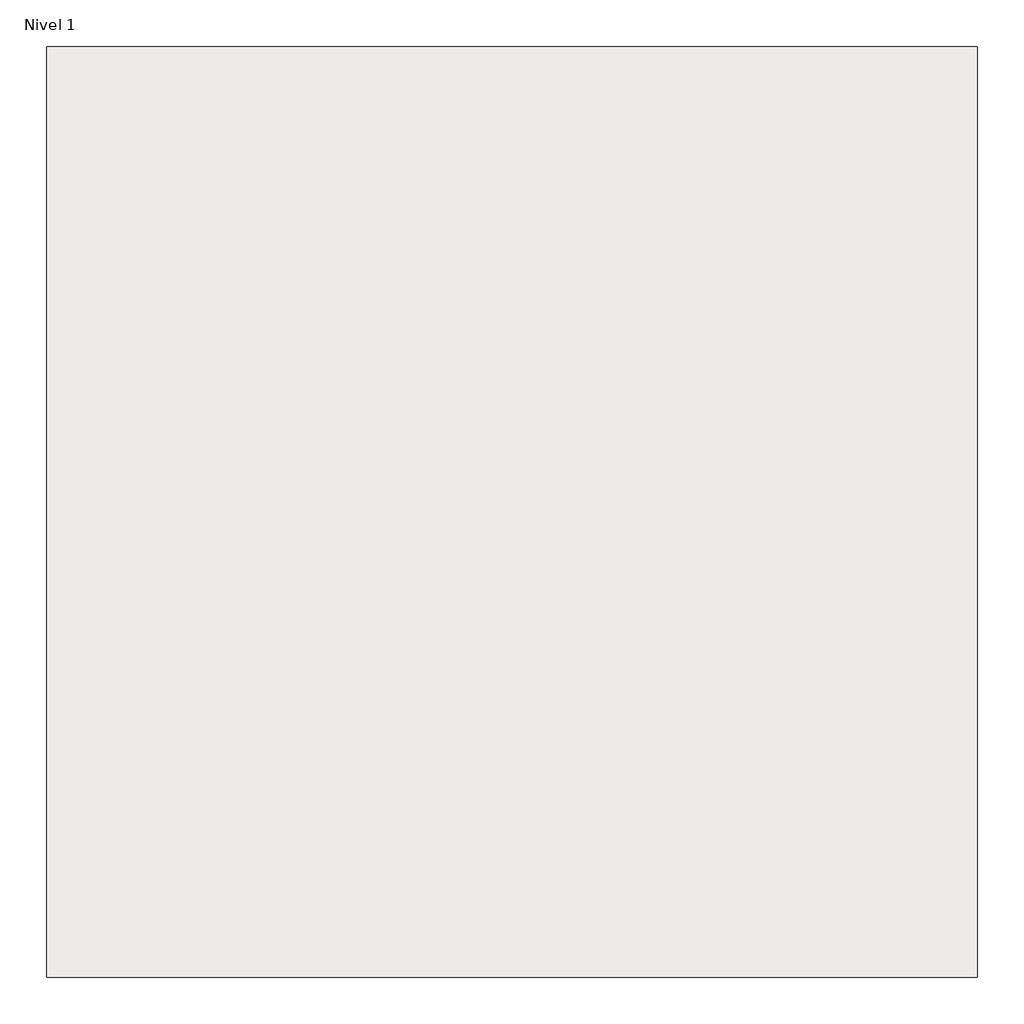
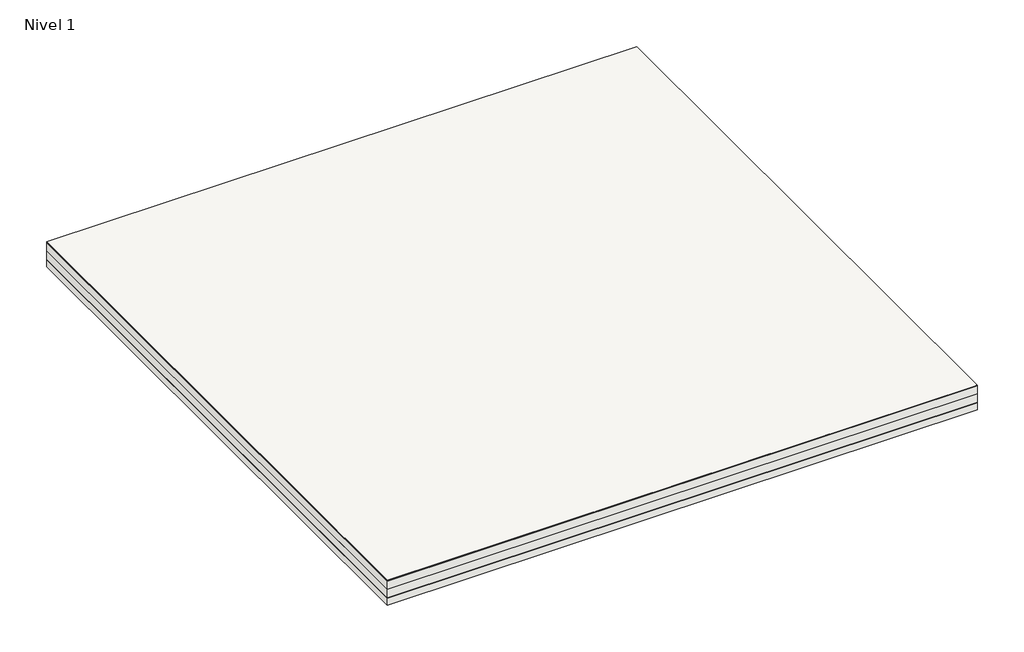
# One storey: 1 roof, 1 slab.
"""IFC4 building model written with IfcOpenShell, lengths in millimetres."""

from ifc_helpers import new_model, si_unit, frame, origin, origin_with_axes, place, context, project, spatial, polyline, outline, extrude, element, save

model = new_model("IFC4")

# Units and contexts
model_context = context("Model", 3, world=origin())
ifc_project = project(units=[si_unit("LENGTHUNIT", "METRE", prefix="MILLI")], contexts=[model_context])

# Site, building, storey
site = spatial("IfcSite", under=ifc_project)
building = spatial("IfcBuilding", under=site)
storey = spatial("IfcBuildingStorey", under=building, Name="Nivel 1", Elevation=0.0)

# Roof
placement = place(None, origin())
element("IfcRoof", 1, ObjectType="CubiertaDeck-Bituminosa_LBMGranuloNatureLanaRocaSoldable_BANTDGM7_MW_NATURE", at=placement, inside=storey, context=model_context, shape_type="SweptSolid", body=[
    extrude(outline(polyline([(-2544.9527165, -3086.8428917), (-6544.9527165, -3086.8428917), (-6544.9527165, 913.1571083), (-2544.9527165, 913.1571083), (-2544.9527165, -3086.8428917)])), frame((0.0, 0.0, 124.0), z_axis=(0.0, 0.0, 1.0), x_axis=(1.0, 0.0, 0.0)), (0.0, 0.0, 1.0), 2.0),
    extrude(outline(polyline([(-2544.9527165, -3086.8428917), (-6544.9527165, -3086.8428917), (-6544.9527165, 913.1571083), (-2544.9527165, 913.1571083), (-2544.9527165, -3086.8428917)])), frame((0.0, 0.0, 122.0), z_axis=(0.0, 0.0, 1.0), x_axis=(1.0, 0.0, 0.0)), (0.0, 0.0, 1.0), 2.0),
    extrude(outline(polyline([(-2544.9527165, -3086.8428917), (-6544.9527165, -3086.8428917), (-6544.9527165, 913.1571083), (-2544.9527165, 913.1571083), (-2544.9527165, -3086.8428917)])), frame((0.0, 0.0, 62.0), z_axis=(0.0, 0.0, 1.0), x_axis=(1.0, 0.0, 0.0)), (0.0, 0.0, 1.0), 60.0),
    extrude(outline(polyline([(-2544.9527165, -3086.8428917), (-6544.9527165, -3086.8428917), (-6544.9527165, 913.1571083), (-2544.9527165, 913.1571083), (-2544.9527165, -3086.8428917)])), frame((0.0, 0.0, 2.0), z_axis=(0.0, 0.0, 1.0), x_axis=(1.0, 0.0, 0.0)), (0.0, 0.0, 1.0), 60.0),
    extrude(outline(polyline([(-2544.9527165, -3086.8428917), (-6544.9527165, -3086.8428917), (-6544.9527165, 913.1571083), (-2544.9527165, 913.1571083), (-2544.9527165, -3086.8428917)])), origin_with_axes(), (0.0, 0.0, 1.0), 2.0),
])

# Slab
element("IfcSlab", 2, ObjectType="Chapa grecada", at=placement, inside=storey, context=model_context, shape_type="SweptSolid", body=[
    extrude(outline(polyline([(-2544.9527165, 913.1571083), (-2544.9527165, -3086.8428917), (-6544.9527165, -3086.8428917), (-6544.9527165, 913.1571083), (-2544.9527165, 913.1571083)])), frame((0.0, 0.0, -50.0), z_axis=(0.0, 0.0, 1.0), x_axis=(1.0, 0.0, 0.0)), (0.0, 0.0, 1.0), 50.0),
])

save(model, "model.ifc")
